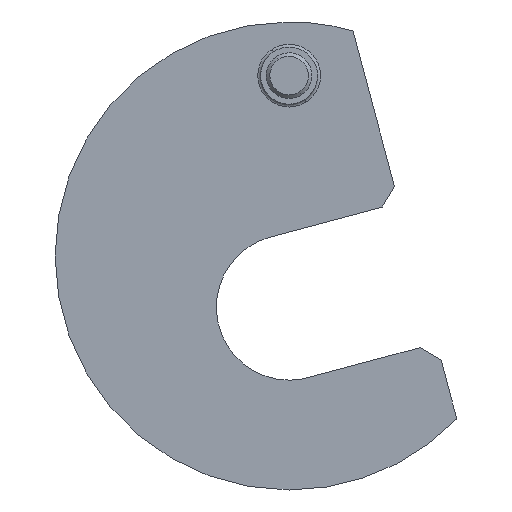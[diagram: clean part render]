
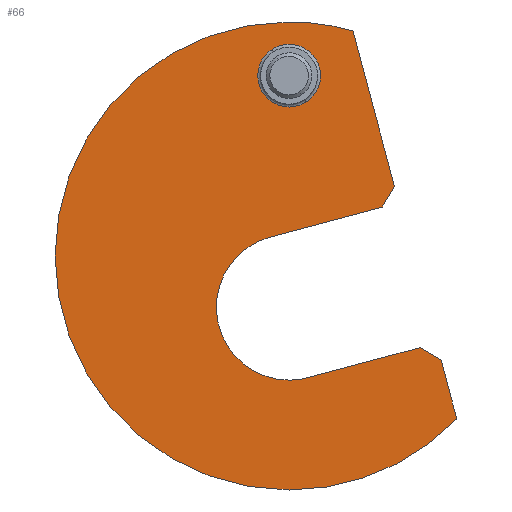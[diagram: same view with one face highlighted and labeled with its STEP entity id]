
A CAD part, front view. The second image highlights one B-rep face of the part: STEP entity #66.
In plain terms, the highlighted planar face has unit normal (0, -1, 0).
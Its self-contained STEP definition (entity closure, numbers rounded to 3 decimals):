
#1 = AXIS2_PLACEMENT_3D ( 'NONE', #3, #5, #4 ) ;
#2 = CIRCLE ( 'NONE', #1, 12.75 ) ;
#3 = CARTESIAN_POINT ( 'NONE',  ( 0., 0., -9. ) ) ;
#4 = DIRECTION ( 'NONE',  ( 0., 0., 1. ) ) ;
#5 = DIRECTION ( 'NONE',  ( 0., -1., 0. ) ) ;
#6 = CIRCLE ( 'NONE', #13, 5.5 ) ;
#10 = DIRECTION ( 'NONE',  ( 0., 0., 1. ) ) ;
#11 = DIRECTION ( 'NONE',  ( 0., 1., 0. ) ) ;
#12 = CARTESIAN_POINT ( 'NONE',  ( 0., 0., 31.6 ) ) ;
#13 = AXIS2_PLACEMENT_3D ( 'NONE', #12, #11, #10 ) ;
#15 = EDGE_LOOP ( 'NONE', ( #43, #20 ) ) ;
#16 = EDGE_CURVE ( 'NONE', #61, #153, #2, .T. ) ;
#17 = ORIENTED_EDGE ( 'NONE', *, *, #16, .F. ) ;
#19 = EDGE_CURVE ( 'NONE', #27, #58, #6, .T. ) ;
#20 = ORIENTED_EDGE ( 'NONE', *, *, #19, .T. ) ;
#27 = VERTEX_POINT ( 'NONE', #1371 ) ;
#40 = EDGE_CURVE ( 'NONE', #46, #73, #642, .T. ) ;
#41 = EDGE_CURVE ( 'NONE', #46, #50, #639, .T. ) ;
#43 = ORIENTED_EDGE ( 'NONE', *, *, #57, .T. ) ;
#44 = ORIENTED_EDGE ( 'NONE', *, *, #40, .F. ) ;
#46 = VERTEX_POINT ( 'NONE', #170 ) ;
#47 = ORIENTED_EDGE ( 'NONE', *, *, #41, .T. ) ;
#50 = VERTEX_POINT ( 'NONE', #171 ) ;
#51 = EDGE_CURVE ( 'NONE', #148, #50, #101, .T. ) ;
#52 = ORIENTED_EDGE ( 'NONE', *, *, #141, .F. ) ;
#53 = ORIENTED_EDGE ( 'NONE', *, *, #51, .F. ) ;
#57 = EDGE_CURVE ( 'NONE', #58, #27, #180, .T. ) ;
#58 = VERTEX_POINT ( 'NONE', #220 ) ;
#59 = EDGE_CURVE ( 'NONE', #67, #60, #179, .T. ) ;
#60 = VERTEX_POINT ( 'NONE', #175 ) ;
#61 = VERTEX_POINT ( 'NONE', #174 ) ;
#62 = ORIENTED_EDGE ( 'NONE', *, *, #59, .T. ) ;
#63 = EDGE_LOOP ( 'NONE', ( #64, #62, #78, #77, #69, #72, #44, #47, #53, #52, #17 ) ) ;
#64 = ORIENTED_EDGE ( 'NONE', *, *, #65, .F. ) ;
#65 = EDGE_CURVE ( 'NONE', #67, #61, #229, .T. ) ;
#66 = ADVANCED_FACE ( 'NONE', ( #225, #224 ), #186, .F. ) ;
#67 = VERTEX_POINT ( 'NONE', #184 ) ;
#69 = ORIENTED_EDGE ( 'NONE', *, *, #128, .F. ) ;
#71 = EDGE_CURVE ( 'NONE', #73, #162, #238, .T. ) ;
#72 = ORIENTED_EDGE ( 'NONE', *, *, #71, .F. ) ;
#73 = VERTEX_POINT ( 'NONE', #234 ) ;
#76 = EDGE_CURVE ( 'NONE', #135, #60, #233, .T. ) ;
#77 = ORIENTED_EDGE ( 'NONE', *, *, #142, .F. ) ;
#78 = ORIENTED_EDGE ( 'NONE', *, *, #76, .F. ) ;
#97 = VECTOR ( 'NONE', #100, 1000. ) ;
#99 = CARTESIAN_POINT ( 'NONE',  ( 3.3, 0., -21.316 ) ) ;
#100 = DIRECTION ( 'NONE',  ( 0.966, 0., 0.259 ) ) ;
#101 = LINE ( 'NONE', #99, #97 ) ;
#128 = EDGE_CURVE ( 'NONE', #162, #140, #291, .T. ) ;
#135 = VERTEX_POINT ( 'NONE', #280 ) ;
#140 = VERTEX_POINT ( 'NONE', #260 ) ;
#141 = EDGE_CURVE ( 'NONE', #153, #148, #259, .T. ) ;
#142 = EDGE_CURVE ( 'NONE', #140, #135, #254, .T. ) ;
#148 = VERTEX_POINT ( 'NONE', #341 ) ;
#153 = VERTEX_POINT ( 'NONE', #338 ) ;
#162 = VERTEX_POINT ( 'NONE', #344 ) ;
#170 = CARTESIAN_POINT ( 'NONE',  ( 26.611, 0., -18.175 ) ) ;
#171 = CARTESIAN_POINT ( 'NONE',  ( 22.937, 0., -16.054 ) ) ;
#174 = CARTESIAN_POINT ( 'NONE',  ( -3.3, 0., 3.316 ) ) ;
#175 = CARTESIAN_POINT ( 'NONE',  ( 18.458, 0., 12.251 ) ) ;
#176 = VECTOR ( 'NONE', #177, 1000. ) ;
#177 = DIRECTION ( 'NONE',  ( 0.5, 0., 0.866 ) ) ;
#178 = CARTESIAN_POINT ( 'NONE',  ( 16.337, 0., 8.577 ) ) ;
#179 = LINE ( 'NONE', #178, #176 ) ;
#180 = CIRCLE ( 'NONE', #242, 5.5 ) ;
#181 = DIRECTION ( 'NONE',  ( 0., 0., 1. ) ) ;
#182 = DIRECTION ( 'NONE',  ( 0., 1., 0. ) ) ;
#183 = CARTESIAN_POINT ( 'NONE',  ( 0., 0., 0. ) ) ;
#184 = CARTESIAN_POINT ( 'NONE',  ( 16.337, 0., 8.577 ) ) ;
#185 = AXIS2_PLACEMENT_3D ( 'NONE', #183, #182, #181 ) ;
#186 = PLANE ( 'NONE',  #185 ) ;
#193 = CARTESIAN_POINT ( 'NONE',  ( 0., 0., 0. ) ) ;
#220 = CARTESIAN_POINT ( 'NONE',  ( 0., 0., 26.1 ) ) ;
#221 = DIRECTION ( 'NONE',  ( 0., 0., 1. ) ) ;
#222 = DIRECTION ( 'NONE',  ( 0., 1., 0. ) ) ;
#223 = CARTESIAN_POINT ( 'NONE',  ( 0., 0., 31.6 ) ) ;
#224 = FACE_BOUND ( 'NONE', #15, .T. ) ;
#225 = FACE_OUTER_BOUND ( 'NONE', #63, .T. ) ;
#226 = DIRECTION ( 'NONE',  ( -0.966, 0., -0.259 ) ) ;
#227 = VECTOR ( 'NONE', #226, 1000. ) ;
#228 = CARTESIAN_POINT ( 'NONE',  ( -3.3, 0., 3.316 ) ) ;
#229 = LINE ( 'NONE', #228, #227 ) ;
#230 = DIRECTION ( 'NONE',  ( 0.259, 0., -0.966 ) ) ;
#231 = VECTOR ( 'NONE', #230, 1000. ) ;
#232 = CARTESIAN_POINT ( 'NONE',  ( 11.17, 0., 39.449 ) ) ;
#233 = LINE ( 'NONE', #232, #231 ) ;
#234 = CARTESIAN_POINT ( 'NONE',  ( 29.398, 0., -28.579 ) ) ;
#235 = DIRECTION ( 'NONE',  ( 0., 0., 1. ) ) ;
#236 = DIRECTION ( 'NONE',  ( 0., 1., 0. ) ) ;
#237 = AXIS2_PLACEMENT_3D ( 'NONE', #193, #236, #235 ) ;
#238 = CIRCLE ( 'NONE', #237, 41. ) ;
#242 = AXIS2_PLACEMENT_3D ( 'NONE', #223, #222, #221 ) ;
#254 = CIRCLE ( 'NONE', #315, 41. ) ;
#255 = DIRECTION ( 'NONE',  ( 0., 0., 1. ) ) ;
#256 = DIRECTION ( 'NONE',  ( 0., -1., 0. ) ) ;
#257 = CARTESIAN_POINT ( 'NONE',  ( 0., 0., -9. ) ) ;
#258 = AXIS2_PLACEMENT_3D ( 'NONE', #257, #256, #255 ) ;
#259 = CIRCLE ( 'NONE', #258, 12.75 ) ;
#260 = CARTESIAN_POINT ( 'NONE',  ( 0., 0., 41. ) ) ;
#280 = CARTESIAN_POINT ( 'NONE',  ( 11.17, 0., 39.449 ) ) ;
#290 = AXIS2_PLACEMENT_3D ( 'NONE', #304, #303, #302 ) ;
#291 = CIRCLE ( 'NONE', #290, 41. ) ;
#302 = DIRECTION ( 'NONE',  ( 0., 0., 1. ) ) ;
#303 = DIRECTION ( 'NONE',  ( 0., 1., 0. ) ) ;
#304 = CARTESIAN_POINT ( 'NONE',  ( 0., 0., 0. ) ) ;
#312 = DIRECTION ( 'NONE',  ( 0., 0., 1. ) ) ;
#313 = DIRECTION ( 'NONE',  ( 0., 1., 0. ) ) ;
#314 = CARTESIAN_POINT ( 'NONE',  ( 0., 0., 0. ) ) ;
#315 = AXIS2_PLACEMENT_3D ( 'NONE', #314, #313, #312 ) ;
#338 = CARTESIAN_POINT ( 'NONE',  ( 0., 0., -21.75 ) ) ;
#341 = CARTESIAN_POINT ( 'NONE',  ( 3.3, 0., -21.316 ) ) ;
#344 = CARTESIAN_POINT ( 'NONE',  ( 0., 0., -41. ) ) ;
#636 = DIRECTION ( 'NONE',  ( -0.866, 0., 0.5 ) ) ;
#637 = VECTOR ( 'NONE', #636, 1000. ) ;
#638 = CARTESIAN_POINT ( 'NONE',  ( 26.611, 0., -18.175 ) ) ;
#639 = LINE ( 'NONE', #638, #637 ) ;
#641 = DIRECTION ( 'NONE',  ( 0.259, 0., -0.966 ) ) ;
#642 = LINE ( 'NONE', #646, #647 ) ;
#646 = CARTESIAN_POINT ( 'NONE',  ( 25.834, 0., -15.277 ) ) ;
#647 = VECTOR ( 'NONE', #641, 1000. ) ;
#1371 = CARTESIAN_POINT ( 'NONE',  ( 0., 0., 37.1 ) ) ;
